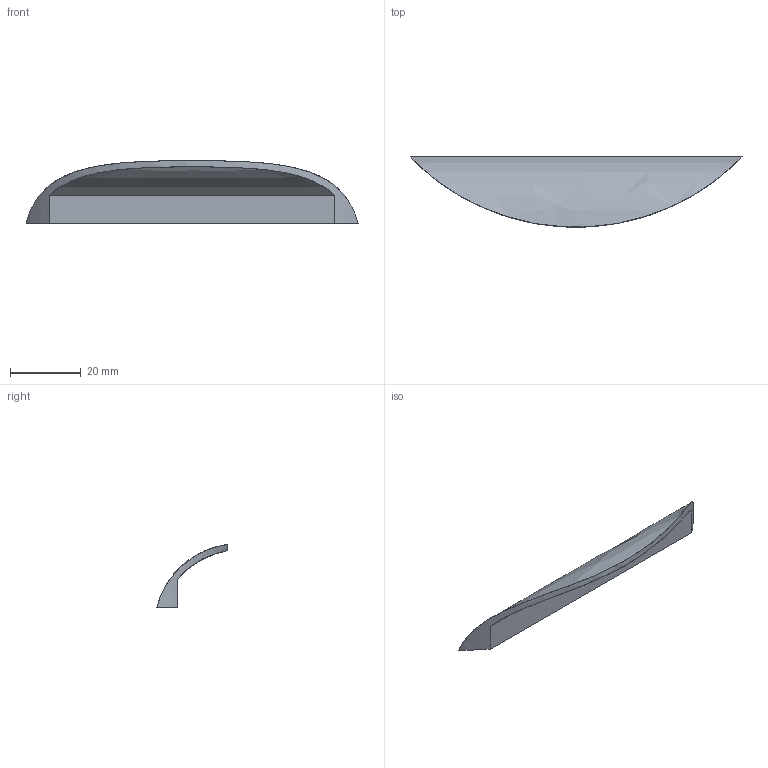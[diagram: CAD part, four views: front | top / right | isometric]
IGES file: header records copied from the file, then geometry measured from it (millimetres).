
Start section: Data from XPlus IGES,  Spatial Corp. Copyright (c) 1999-2004
Global section: file name: 9070121.igs; native system:  By Spatial Corp.; preprocessor: XPlus ACIS/IGES 3.0; author: Noname; organization: Noname; date: 20130226.190956; units: millimetre
Bounding box: 94 x 20 x 17.79 mm (x, y, z)
Surface area: 4475.3 mm2 (no closed solid volume)
Topology: 0 solids, 0 shells, 11 faces, 42 edges, 42 vertices
Faces by surface type: revolution 7, extrusion 4
